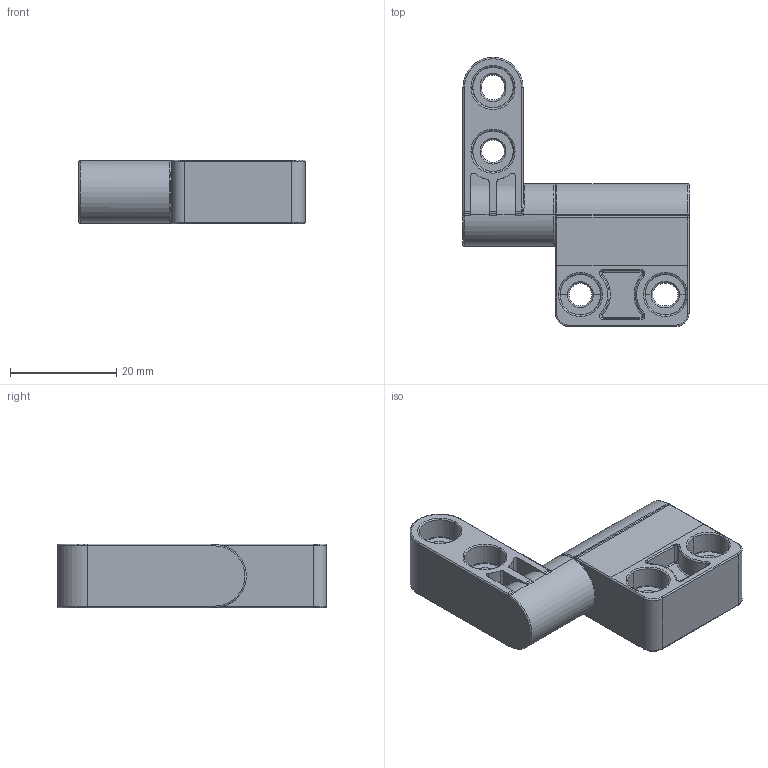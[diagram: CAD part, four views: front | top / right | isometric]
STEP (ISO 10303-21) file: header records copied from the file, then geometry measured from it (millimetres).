
FILE_DESCRIPTION (( 'STEP AP214' ), '1' );
FILE_NAME ('Reell RT-120-XX-01.STEP', '2015-09-10T12:49:12', ( 'USER' ), ( '' ), 'SwSTEP 2.0', 'SolidWorks 2015', '' );
FILE_SCHEMA (( 'AUTOMOTIVE_DESIGN' ));
Length unit declared in the file: millimetre
Products named in the file (3): RT120 Join, Center2; RT120 Join, Shaft End; Reell RT-120-XX-01
Assembly tree (2 placements, depth 2):
  Reell RT-120-XX-01
    RT120 Join, Shaft End
    RT120 Join, Center2
Bounding box: 42.55 x 50.65 x 12 mm (x, y, z)
Volume: 11098.9 mm3; surface area: 6195.9 mm2
Topology: 2 solids, 2 shells, 409 faces, 1005 edges, 616 vertices
Faces by surface type: plane 139, cylinder 101, torus 84, bspline 63, cone 22
Entity records: 14545 total; most frequent: CARTESIAN_POINT 4928, ORIENTED_EDGE 2002, DIRECTION 1987, EDGE_CURVE 1001, AXIS2_PLACEMENT_3D 755, VERTEX_POINT 616, VECTOR 477, LINE 477
